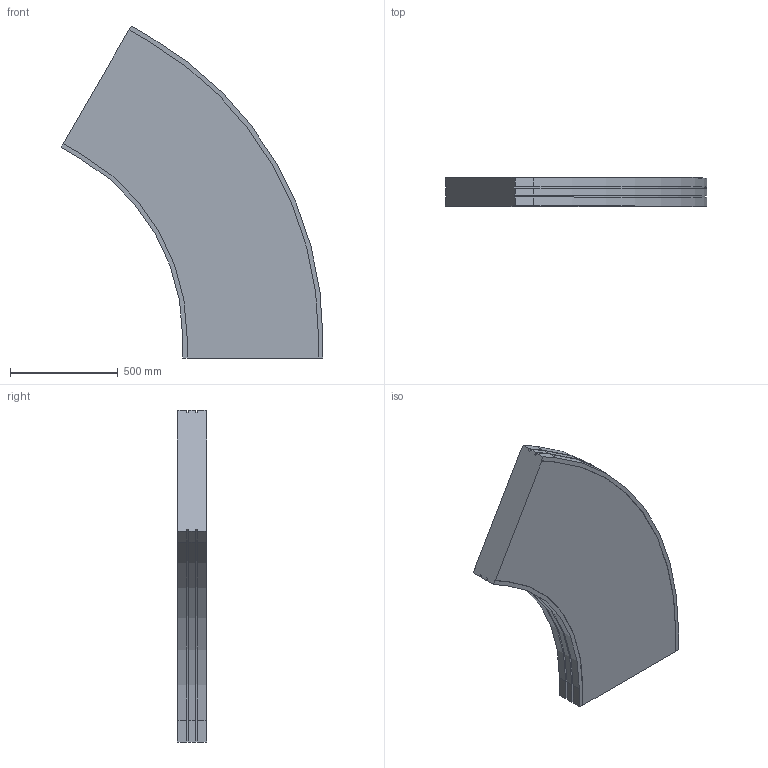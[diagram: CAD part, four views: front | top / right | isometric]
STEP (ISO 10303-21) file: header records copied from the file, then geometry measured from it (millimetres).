
FILE_DESCRIPTION (( 'STEP AP214' ), '1' );
FILE_NAME ('02.150H60.650.N FS-MTC-150 Bocht horizontaal 60°.STEP', '2013-03-29T11:20:45', ( 'Gebruiker' ), ( '' ), 'SwSTEP 2.0', 'SolidWorks 2012', '' );
FILE_SCHEMA (( 'AUTOMOTIVE_DESIGN' ));
Length unit declared in the file: millimetre
Products named in the file (1): 02.150H60.650.N FS-MTC-150 Bocht horizontaal 60°
Bounding box: 1214.48 x 136 x 1540.19 mm (x, y, z)
Volume: 135386116.5 mm3; surface area: 2734404.8 mm2
Topology: 1 solids, 1 shells, 58 faces, 168 edges, 112 vertices
Faces by surface type: plane 44, cylinder 14
Entity records: 1934 total; most frequent: CARTESIAN_POINT 339, ORIENTED_EDGE 336, DIRECTION 314, EDGE_CURVE 168, LINE 140, VECTOR 140, VERTEX_POINT 112, AXIS2_PLACEMENT_3D 87
